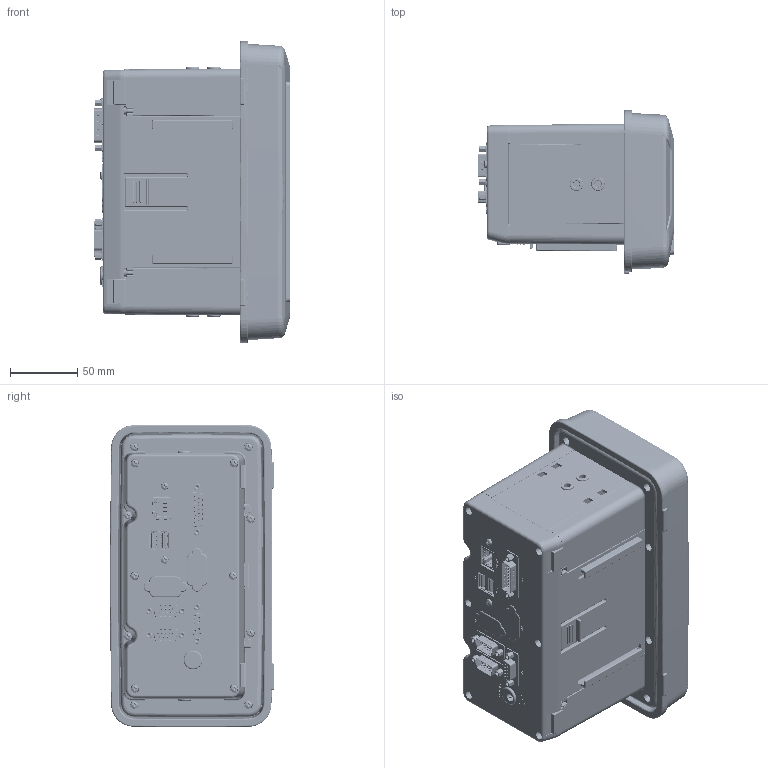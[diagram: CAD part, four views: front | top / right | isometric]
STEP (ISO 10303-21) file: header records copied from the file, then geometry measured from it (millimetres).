
FILE_DESCRIPTION((''),'1');
FILE_NAME('EILF_version-D.step','2023-01-19T09:18:29',(''),(''),'','','');
FILE_SCHEMA(('AUTOMOTIVE_DESIGN { 1 0 10303 214 1 1 1 1 }'));
Length unit declared in the file: metre
Products named in the file (34): EILF version-D; EILF cover 01; EILF seal 01; EILF body 01; EILF screw 01; EILF part 02; EILF screw 02; EILF part 03; EILF part 04; EILF screw 03; EILF seal 02; EILF cover 03; EILF connector 01; EILF part 05; EILF cover 04; EILF part 06; EILF part 07; EILF base 01; EILF part 08; EILF part 10; EILF part 11; EILF base 02; EILF housing 01; EILF part 12; EILF display 01; EILF part 13; EILF part 14; EILF part 15; EILF cover 05; EILF circuit board 01; EILF bracket 01; EILF part 16; EILF circuit board 02; EILF screw 04
Assembly tree (68 placements, depth 5):
  EILF version-D
    EILF cover 01
    EILF seal 01
    EILF body 01
    EILF screw 01  x8
    EILF part 02
    EILF screw 02  x4
    EILF part 03
    EILF part 04
    EILF screw 03  x8
    EILF seal 02
    EILF cover 03
    EILF connector 01
    EILF part 05
    EILF cover 04  x2
    EILF part 06
    EILF part 07  x2
    EILF circuit board 01
      EILF housing 01
        EILF base 01
          EILF part 08  x4
          EILF part 10  x8
          EILF part 11  x4
          EILF base 02
        EILF part 12
        EILF display 01  x2
        EILF part 13
        EILF part 14
        EILF part 15
        EILF cover 05
      EILF bracket 01  x2
      EILF part 16
      EILF circuit board 02
    EILF screw 04  x2
Bounding box: 146.4 x 121.93 x 225.28 mm (x, y, z)
Volume: 484827.9 mm3; surface area: 479881.9 mm2
Topology: 66 solids, 67 shells, 12384 faces, 33397 edges, 21340 vertices
Faces by surface type: plane 6453, cylinder 3795, torus 672, cone 555, bspline 546, sphere 234, revolution 129
Entity records: 425844 total; most frequent: CARTESIAN_POINT 158405, ORIENTED_EDGE 56068, DIRECTION 55074, EDGE_CURVE 28034, AXIS2_PLACEMENT_3D 19239, VERTEX_POINT 17917, LINE 16467, VECTOR 16467
